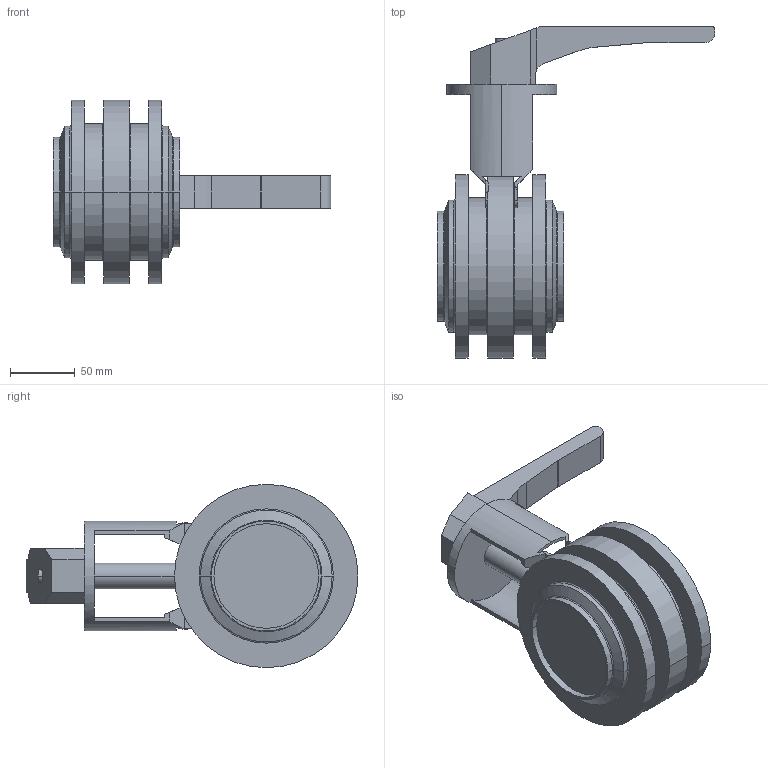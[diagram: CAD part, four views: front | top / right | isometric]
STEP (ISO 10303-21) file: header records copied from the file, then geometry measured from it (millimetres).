
FILE_DESCRIPTION(('Creo Elements/Direct Modeling STEP Export'),'2;1');
FILE_NAME('SVS1F-80-HL-12S.stp','2015-02-10T16:37:54',(''),(''),'Creo Elements/Direct Modeling STEP processor for AP214 (Solid Model)','Creo Elements/Direct Modeling 17.0D 15-Jul-2011 (C) Parametric Technology GmbH','');
FILE_SCHEMA(('AUTOMOTIVE_DESIGN { 1 0 10303 214 1 1 1 1 }'));
Length unit declared in the file: millimetre
Products named in the file (4): SVS1F-80-H-12S; Handhebel-SV-40-100; SV_Laterne_HL_65_100; SVS1F-80-HL-12S
Assembly tree (3 placements, depth 2):
  SVS1F-80-HL-12S
    SV_Laterne_HL_65_100
    Handhebel-SV-40-100
    SVS1F-80-H-12S
Bounding box: 214.96 x 256.95 x 142 mm (x, y, z)
Volume: 1251254.7 mm3; surface area: 152178.6 mm2
Topology: 3 solids, 3 shells, 157 faces, 399 edges, 258 vertices
Faces by surface type: plane 92, cylinder 49, torus 12, cone 4
Entity records: 4975 total; most frequent: CARTESIAN_POINT 1154, ORIENTED_EDGE 798, DIRECTION 761, EDGE_CURVE 399, AXIS2_PLACEMENT_3D 264, VERTEX_POINT 258, VECTOR 233, LINE 233
